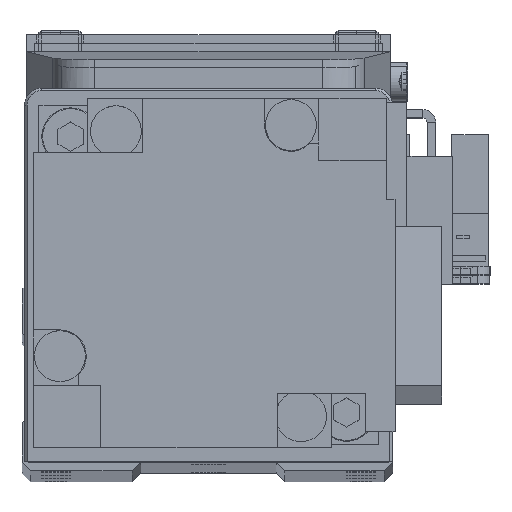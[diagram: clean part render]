
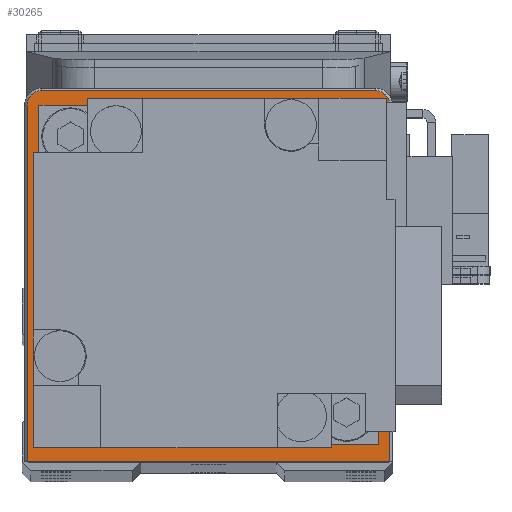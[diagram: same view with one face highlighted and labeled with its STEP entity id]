
A CAD part, top view. The second image highlights one B-rep face of the part: STEP entity #30265.
In plain terms, the highlighted planar face has unit normal (0, 0, 1).
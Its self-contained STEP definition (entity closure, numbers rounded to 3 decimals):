
#94 = LINE ( 'NONE', #23696, #10927 ) ;
#151 = CARTESIAN_POINT ( 'NONE',  ( -21.4, -22., 26.5 ) ) ;
#515 = VERTEX_POINT ( 'NONE', #30717 ) ;
#720 = ORIENTED_EDGE ( 'NONE', *, *, #33689, .T. ) ;
#849 = PLANE ( 'NONE',  #33294 ) ;
#1066 = LINE ( 'NONE', #8593, #5607 ) ;
#1337 = DIRECTION ( 'NONE',  ( 1., 0., 0. ) ) ;
#1351 = DIRECTION ( 'NONE',  ( 1., 0., 0. ) ) ;
#1654 = VECTOR ( 'NONE', #21219, 1000. ) ;
#2105 = ORIENTED_EDGE ( 'NONE', *, *, #31730, .T. ) ;
#2867 = LINE ( 'NONE', #7609, #1654 ) ;
#3134 = FACE_BOUND ( 'NONE', #17393, .T. ) ;
#4328 = DIRECTION ( 'NONE',  ( 0., 0., 1. ) ) ;
#4585 = VECTOR ( 'NONE', #10301, 1000. ) ;
#4621 = CARTESIAN_POINT ( 'NONE',  ( 19.7, 21.7, 26.5 ) ) ;
#4934 = ORIENTED_EDGE ( 'NONE', *, *, #23673, .T. ) ;
#5398 = VERTEX_POINT ( 'NONE', #9787 ) ;
#5480 = CARTESIAN_POINT ( 'NONE',  ( -19.7, 20., 26.5 ) ) ;
#5607 = VECTOR ( 'NONE', #22375, 1000. ) ;
#6464 = CIRCLE ( 'NONE', #20379, 10. ) ;
#6779 = CARTESIAN_POINT ( 'NONE',  ( 0., 0., 26.5 ) ) ;
#6797 = EDGE_CURVE ( 'NONE', #21140, #5398, #33385, .T. ) ;
#7476 = CARTESIAN_POINT ( 'NONE',  ( 10., 0., 26.5 ) ) ;
#7609 = CARTESIAN_POINT ( 'NONE',  ( 21.4, 20., 26.5 ) ) ;
#8593 = CARTESIAN_POINT ( 'NONE',  ( -21.7, -22., 26.5 ) ) ;
#9787 = CARTESIAN_POINT ( 'NONE',  ( -21.4, 20., 26.5 ) ) ;
#10253 = ORIENTED_EDGE ( 'NONE', *, *, #6797, .T. ) ;
#10301 = DIRECTION ( 'NONE',  ( 0., -1., 0. ) ) ;
#10927 = VECTOR ( 'NONE', #24197, 1000. ) ;
#12911 = CARTESIAN_POINT ( 'NONE',  ( 21.4, 20., 26.5 ) ) ;
#13712 = ORIENTED_EDGE ( 'NONE', *, *, #23358, .F. ) ;
#14009 = CARTESIAN_POINT ( 'NONE',  ( -10., 0., 26.5 ) ) ;
#14261 = DIRECTION ( 'NONE',  ( 0., 0., 1. ) ) ;
#14442 = CIRCLE ( 'NONE', #34529, 10. ) ;
#15931 = DIRECTION ( 'NONE',  ( 1., 0., 0. ) ) ;
#16680 = EDGE_CURVE ( 'NONE', #5398, #515, #31967, .T. ) ;
#17236 = DIRECTION ( 'NONE',  ( 0., 0., 1. ) ) ;
#17384 = CARTESIAN_POINT ( 'NONE',  ( 0., 0., 26.5 ) ) ;
#17393 = EDGE_LOOP ( 'NONE', ( #27300, #13712 ) ) ;
#19588 = EDGE_LOOP ( 'NONE', ( #20212, #720, #2105, #4934, #10253, #23124 ) ) ;
#20212 = ORIENTED_EDGE ( 'NONE', *, *, #34328, .T. ) ;
#20379 = AXIS2_PLACEMENT_3D ( 'NONE', #17384, #14261, #1337 ) ;
#20706 = VERTEX_POINT ( 'NONE', #23950 ) ;
#21140 = VERTEX_POINT ( 'NONE', #26533 ) ;
#21219 = DIRECTION ( 'NONE',  ( 0., 1., 0. ) ) ;
#21698 = DIRECTION ( 'NONE',  ( 0., 0., 1. ) ) ;
#21810 = FACE_OUTER_BOUND ( 'NONE', #19588, .T. ) ;
#22254 = VERTEX_POINT ( 'NONE', #14009 ) ;
#22375 = DIRECTION ( 'NONE',  ( 1., 0., 0. ) ) ;
#23124 = ORIENTED_EDGE ( 'NONE', *, *, #16680, .T. ) ;
#23358 = EDGE_CURVE ( 'NONE', #33076, #22254, #6464, .T. ) ;
#23673 = EDGE_CURVE ( 'NONE', #25148, #21140, #94, .T. ) ;
#23696 = CARTESIAN_POINT ( 'NONE',  ( -19.7, 21.7, 26.5 ) ) ;
#23950 = CARTESIAN_POINT ( 'NONE',  ( 21.4, -22., 26.5 ) ) ;
#24197 = DIRECTION ( 'NONE',  ( -1., 0., 0. ) ) ;
#24610 = CARTESIAN_POINT ( 'NONE',  ( 0., 0., 26.5 ) ) ;
#25123 = DIRECTION ( 'NONE',  ( 1., 0., 0. ) ) ;
#25148 = VERTEX_POINT ( 'NONE', #4621 ) ;
#25526 = AXIS2_PLACEMENT_3D ( 'NONE', #25806, #4328, #1351 ) ;
#25806 = CARTESIAN_POINT ( 'NONE',  ( 19.7, 20., 26.5 ) ) ;
#26533 = CARTESIAN_POINT ( 'NONE',  ( -19.7, 21.7, 26.5 ) ) ;
#27300 = ORIENTED_EDGE ( 'NONE', *, *, #32946, .F. ) ;
#27757 = DIRECTION ( 'NONE',  ( 0., 0., 1. ) ) ;
#29447 = CIRCLE ( 'NONE', #25526, 1.7 ) ;
#30092 = VERTEX_POINT ( 'NONE', #12911 ) ;
#30265 = ADVANCED_FACE ( 'NONE', ( #21810, #3134 ), #849, .T. ) ;
#30717 = CARTESIAN_POINT ( 'NONE',  ( -21.4, -22., 26.5 ) ) ;
#31730 = EDGE_CURVE ( 'NONE', #30092, #25148, #29447, .T. ) ;
#31967 = LINE ( 'NONE', #151, #4585 ) ;
#32273 = AXIS2_PLACEMENT_3D ( 'NONE', #5480, #21698, #15931 ) ;
#32478 = DIRECTION ( 'NONE',  ( 1., 0., 0. ) ) ;
#32946 = EDGE_CURVE ( 'NONE', #22254, #33076, #14442, .T. ) ;
#33076 = VERTEX_POINT ( 'NONE', #7476 ) ;
#33294 = AXIS2_PLACEMENT_3D ( 'NONE', #24610, #27757, #32478 ) ;
#33385 = CIRCLE ( 'NONE', #32273, 1.7 ) ;
#33689 = EDGE_CURVE ( 'NONE', #20706, #30092, #2867, .T. ) ;
#34328 = EDGE_CURVE ( 'NONE', #515, #20706, #1066, .T. ) ;
#34529 = AXIS2_PLACEMENT_3D ( 'NONE', #6779, #17236, #25123 ) ;
